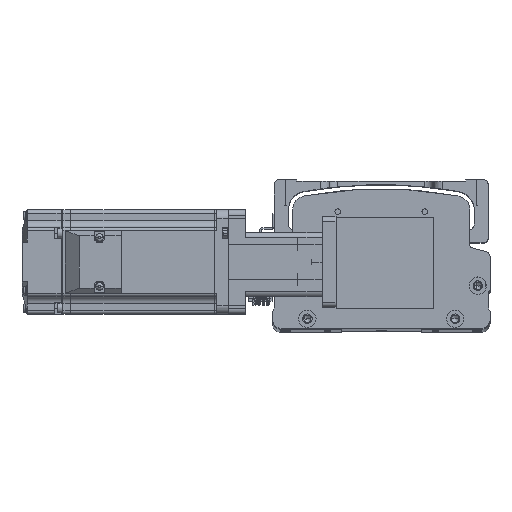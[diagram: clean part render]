
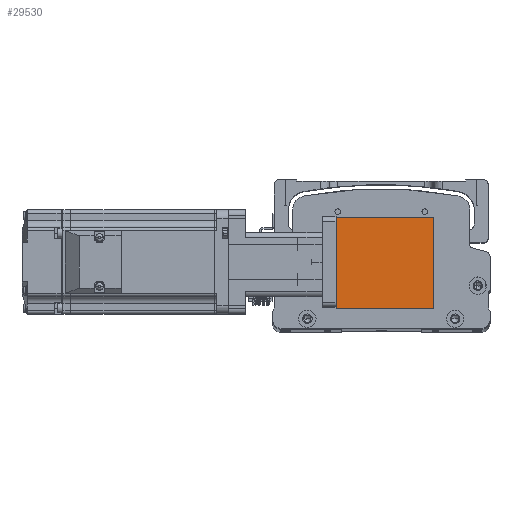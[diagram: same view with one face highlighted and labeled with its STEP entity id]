
A CAD part, top view. The second image highlights one B-rep face of the part: STEP entity #29530.
In plain terms, the highlighted planar face has unit normal (0, 0, 1) as drawn and (-1, 0, 0) by its records, which use the part's own axes.
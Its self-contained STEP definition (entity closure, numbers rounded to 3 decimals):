
#1127 = ORIENTED_EDGE ( 'NONE', *, *, #25449, .T. ) ;
#3848 = FACE_OUTER_BOUND ( 'NONE', #10447, .T. ) ;
#4533 = DIRECTION ( 'NONE',  ( 0., 0., -1. ) ) ;
#7864 = VECTOR ( 'NONE', #47634, 1000. ) ;
#8795 = CARTESIAN_POINT ( 'NONE',  ( -31.5, -26., 0. ) ) ;
#10214 = ORIENTED_EDGE ( 'NONE', *, *, #32124, .F. ) ;
#10447 = EDGE_LOOP ( 'NONE', ( #40513, #35824, #10214, #1127 ) ) ;
#11397 = PLANE ( 'NONE',  #56822 ) ;
#12498 = LINE ( 'NONE', #24306, #23772 ) ;
#13834 = CARTESIAN_POINT ( 'NONE',  ( -31.5, -26., 56. ) ) ;
#15476 = CARTESIAN_POINT ( 'NONE',  ( -31.5, 26., 56. ) ) ;
#18456 = VERTEX_POINT ( 'NONE', #15476 ) ;
#21061 = DIRECTION ( 'NONE',  ( 1., 0., 0. ) ) ;
#22521 = EDGE_CURVE ( 'NONE', #41614, #43768, #48592, .T. ) ;
#22953 = VERTEX_POINT ( 'NONE', #13834 ) ;
#23772 = VECTOR ( 'NONE', #53070, 1000. ) ;
#24306 = CARTESIAN_POINT ( 'NONE',  ( -31.5, 26., 56. ) ) ;
#25449 = EDGE_CURVE ( 'NONE', #18456, #41614, #12498, .T. ) ;
#25484 = LINE ( 'NONE', #33303, #51019 ) ;
#29530 = ADVANCED_FACE ( 'NONE', ( #3848 ), #11397, .F. ) ;
#31596 = CARTESIAN_POINT ( 'NONE',  ( -31.5, 26., 0. ) ) ;
#32124 = EDGE_CURVE ( 'NONE', #18456, #22953, #33448, .T. ) ;
#33303 = CARTESIAN_POINT ( 'NONE',  ( -31.5, -26., 56. ) ) ;
#33448 = LINE ( 'NONE', #42838, #7864 ) ;
#33636 = DIRECTION ( 'NONE',  ( 0., -1., 0. ) ) ;
#35824 = ORIENTED_EDGE ( 'NONE', *, *, #45463, .F. ) ;
#40513 = ORIENTED_EDGE ( 'NONE', *, *, #22521, .T. ) ;
#41614 = VERTEX_POINT ( 'NONE', #31596 ) ;
#42838 = CARTESIAN_POINT ( 'NONE',  ( -31.5, -26., 56. ) ) ;
#43102 = CARTESIAN_POINT ( 'NONE',  ( -31.5, -26., 0. ) ) ;
#43768 = VERTEX_POINT ( 'NONE', #8795 ) ;
#45463 = EDGE_CURVE ( 'NONE', #22953, #43768, #25484, .T. ) ;
#47634 = DIRECTION ( 'NONE',  ( 0., -1., 0. ) ) ;
#48592 = LINE ( 'NONE', #43102, #50075 ) ;
#49825 = CARTESIAN_POINT ( 'NONE',  ( -31.5, -26., 56. ) ) ;
#50075 = VECTOR ( 'NONE', #33636, 1000. ) ;
#51019 = VECTOR ( 'NONE', #4533, 1000. ) ;
#53070 = DIRECTION ( 'NONE',  ( 0., 0., -1. ) ) ;
#54629 = DIRECTION ( 'NONE',  ( 0., 0., -1. ) ) ;
#56822 = AXIS2_PLACEMENT_3D ( 'NONE', #49825, #21061, #54629 ) ;
